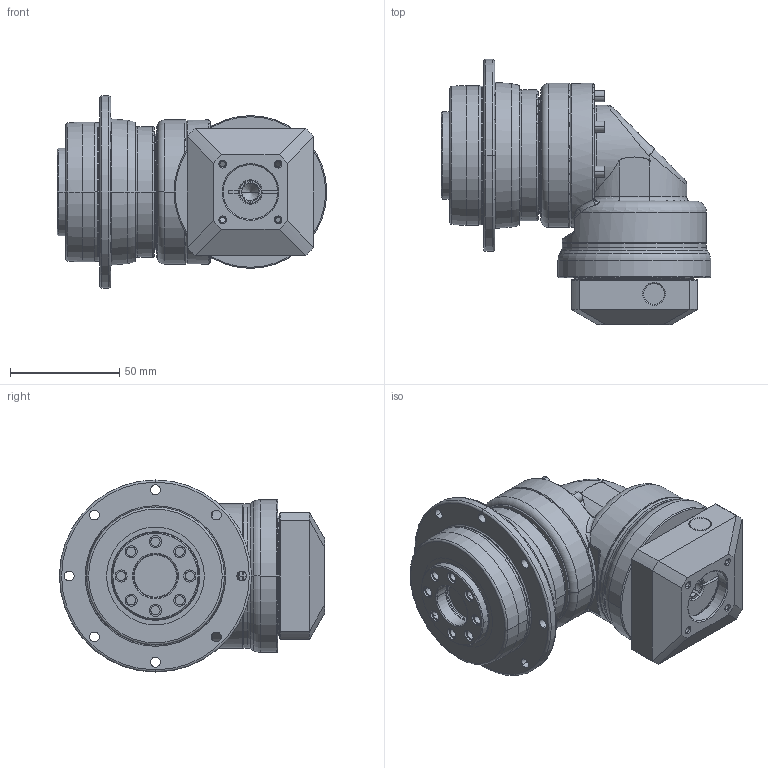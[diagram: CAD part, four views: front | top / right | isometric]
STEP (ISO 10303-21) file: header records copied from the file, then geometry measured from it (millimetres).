
FILE_DESCRIPTION((''),'2;1');
FILE_NAME('PDR064_1ST_8-P0411100101_ASM','2016-06-04T',('d01943'),(''),'PRO/ENGINEER BY PARAMETRIC TECHNOLOGY CORPORATION, 2008410','PRO/ENGINEER BY PARAMETRIC TECHNOLOGY CORPORATION, 2008410','');
FILE_SCHEMA(('CONFIG_CONTROL_DESIGN'));
Length unit declared in the file: millimetre
Products named in the file (10): P1355200001; P0367200001; P0274200001; P1349200001; P1017200001; P1350200001; P0411100101; P0503100005; P0713200001; PDR064_1ST_8-P0411100101_ASM
Assembly tree (9 placements, depth 2):
  PDR064_1ST_8-P0411100101_ASM
    P1355200001
    P0367200001
    P0274200001
    P1349200001
    P1017200001
    P1350200001
    P0411100101
    P0503100005
    P0713200001
Bounding box: 123.5 x 121.5 x 88 mm (x, y, z)
Volume: 398471.5 mm3; surface area: 103272.1 mm2
Topology: 9 solids, 9 shells, 550 faces, 1266 edges, 746 vertices
Faces by surface type: cylinder 190, cone 158, plane 90, torus 82, bspline 30
Entity records: 18414 total; most frequent: CARTESIAN_POINT 5762, DIRECTION 2800, ORIENTED_EDGE 2464, EDGE_CURVE 1232, AXIS2_PLACEMENT_3D 1195, VERTEX_POINT 746, CIRCLE 656, EDGE_LOOP 648
